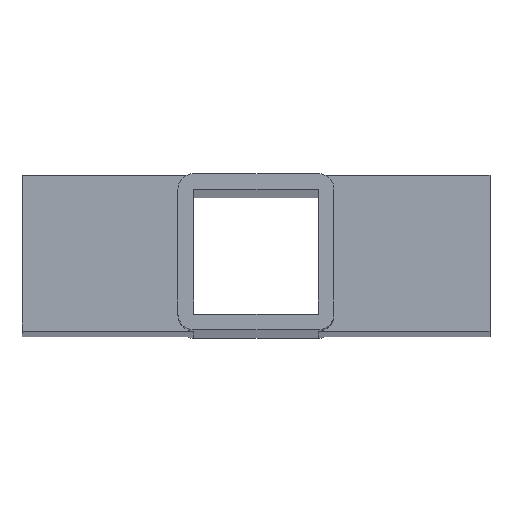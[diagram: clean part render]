
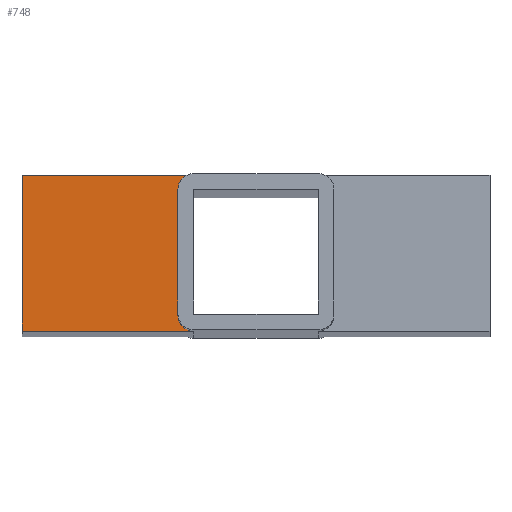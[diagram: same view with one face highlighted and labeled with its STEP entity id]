
A CAD part, top view. The second image highlights one B-rep face of the part: STEP entity #748.
In plain terms, the highlighted planar face has unit normal (0, 0, 1).
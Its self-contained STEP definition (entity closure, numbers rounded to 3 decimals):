
#74 = VERTEX_POINT ( 'NONE', #1179 ) ;
#82 = EDGE_CURVE ( 'NONE', #301, #74, #233, .T. ) ;
#121 = LINE ( 'NONE', #648, #868 ) ;
#135 = ORIENTED_EDGE ( 'NONE', *, *, #1162, .F. ) ;
#141 = AXIS2_PLACEMENT_3D ( 'NONE', #614, #1185, #404 ) ;
#160 = ORIENTED_EDGE ( 'NONE', *, *, #1133, .F. ) ;
#213 = VECTOR ( 'NONE', #537, 1000. ) ;
#227 = VERTEX_POINT ( 'NONE', #978 ) ;
#233 = CIRCLE ( 'NONE', #883, 3. ) ;
#270 = CARTESIAN_POINT ( 'NONE',  ( -45., -15., 325. ) ) ;
#290 = CARTESIAN_POINT ( 'NONE',  ( -12., 15., 325. ) ) ;
#296 = CARTESIAN_POINT ( 'NONE',  ( -45., 0., 325. ) ) ;
#301 = VERTEX_POINT ( 'NONE', #290 ) ;
#302 = VERTEX_POINT ( 'NONE', #658 ) ;
#306 = ORIENTED_EDGE ( 'NONE', *, *, #827, .F. ) ;
#323 = DIRECTION ( 'NONE',  ( 0., 0., 1. ) ) ;
#358 = CARTESIAN_POINT ( 'NONE',  ( 0., 15., 325. ) ) ;
#404 = DIRECTION ( 'NONE',  ( 1., 0., 0. ) ) ;
#441 = VERTEX_POINT ( 'NONE', #270 ) ;
#455 = FACE_OUTER_BOUND ( 'NONE', #920, .T. ) ;
#466 = LINE ( 'NONE', #296, #817 ) ;
#510 = CARTESIAN_POINT ( 'NONE',  ( -12., 12., 325. ) ) ;
#519 = DIRECTION ( 'NONE',  ( 1., 0., 0. ) ) ;
#537 = DIRECTION ( 'NONE',  ( -1., 0., 0. ) ) ;
#552 = DIRECTION ( 'NONE',  ( 1., 0., 0. ) ) ;
#569 = DIRECTION ( 'NONE',  ( 0., 1., 0. ) ) ;
#614 = CARTESIAN_POINT ( 'NONE',  ( -12., -12., 325. ) ) ;
#648 = CARTESIAN_POINT ( 'NONE',  ( -15., 0., 325. ) ) ;
#658 = CARTESIAN_POINT ( 'NONE',  ( -15., -12., 325. ) ) ;
#672 = LINE ( 'NONE', #358, #987 ) ;
#683 = VERTEX_POINT ( 'NONE', #695 ) ;
#695 = CARTESIAN_POINT ( 'NONE',  ( -45., 15., 325. ) ) ;
#726 = CIRCLE ( 'NONE', #141, 3. ) ;
#748 = ADVANCED_FACE ( 'NONE', ( #455 ), #1197, .T. ) ;
#817 = VECTOR ( 'NONE', #569, 1000. ) ;
#827 = EDGE_CURVE ( 'NONE', #302, #227, #726, .T. ) ;
#843 = AXIS2_PLACEMENT_3D ( 'NONE', #1200, #323, #519 ) ;
#868 = VECTOR ( 'NONE', #1035, 1000. ) ;
#883 = AXIS2_PLACEMENT_3D ( 'NONE', #510, #904, #1191 ) ;
#904 = DIRECTION ( 'NONE',  ( 0., 0., 1. ) ) ;
#913 = LINE ( 'NONE', #936, #213 ) ;
#920 = EDGE_LOOP ( 'NONE', ( #986, #160, #135, #1173, #306, #1163 ) ) ;
#936 = CARTESIAN_POINT ( 'NONE',  ( 0., -15., 325. ) ) ;
#974 = EDGE_CURVE ( 'NONE', #227, #441, #913, .T. ) ;
#978 = CARTESIAN_POINT ( 'NONE',  ( -12., -15., 325. ) ) ;
#986 = ORIENTED_EDGE ( 'NONE', *, *, #82, .F. ) ;
#987 = VECTOR ( 'NONE', #552, 1000. ) ;
#1035 = DIRECTION ( 'NONE',  ( 0., -1., 0. ) ) ;
#1050 = EDGE_CURVE ( 'NONE', #74, #302, #121, .T. ) ;
#1133 = EDGE_CURVE ( 'NONE', #683, #301, #672, .T. ) ;
#1162 = EDGE_CURVE ( 'NONE', #441, #683, #466, .T. ) ;
#1163 = ORIENTED_EDGE ( 'NONE', *, *, #1050, .F. ) ;
#1173 = ORIENTED_EDGE ( 'NONE', *, *, #974, .F. ) ;
#1179 = CARTESIAN_POINT ( 'NONE',  ( -15., 12., 325. ) ) ;
#1185 = DIRECTION ( 'NONE',  ( 0., 0., 1. ) ) ;
#1191 = DIRECTION ( 'NONE',  ( 1., 0., 0. ) ) ;
#1197 = PLANE ( 'NONE',  #843 ) ;
#1200 = CARTESIAN_POINT ( 'NONE',  ( 0., 0., 325. ) ) ;
